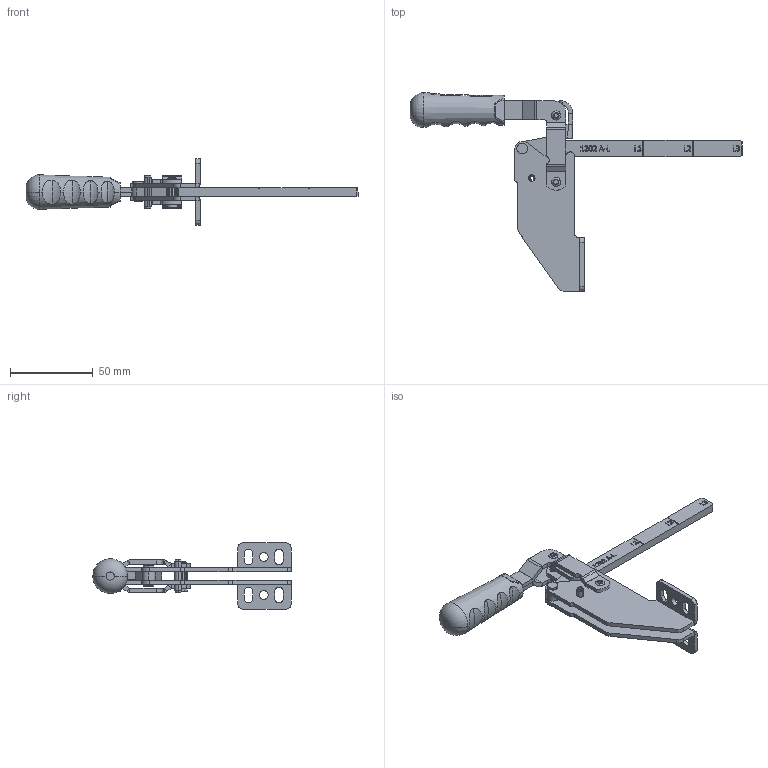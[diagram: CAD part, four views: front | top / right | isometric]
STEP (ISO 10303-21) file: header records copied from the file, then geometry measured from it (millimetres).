
FILE_DESCRIPTION (( 'STEP AP203' ), '1' );
FILE_NAME ('1202_A_L.STEP', '2022-11-26T14:52:43', ( '' ), ( '' ), 'SwSTEP 2.0', 'SolidWorks 2023', '' );
FILE_SCHEMA (( 'CONFIG_CONTROL_DESIGN' ));
Length unit declared in the file: millimetre
Products named in the file (11): 1202_Mafsal_Varsayılan; Pim_4x17_5_Varsayılan; Yarıklı Pim_4x20_Varsayılan; Pim_4x12_5_Varsayılan; Aynalama1302_Hareket kolu_Varsayılan; 1302_Hareket kolu_Varsayılan; C55_T(YENİ_TUTAMAK)_Varsayılan; 1202_A_L; 1302_UFA-Govde; Burc_7x4x10_Varsayılan; 1102A_Lama baskı Kolu_Varsayılan
Assembly tree (12 placements, depth 2):
  1202_A_L
    1302_UFA-Govde
    1202_Mafsal_Varsayılan
    1102A_Lama baskı Kolu_Varsayılan
    Pim_4x17_5_Varsayılan  x2
    Pim_4x12_5_Varsayılan  x2
    Yarıklı Pim_4x20_Varsayılan
    Burc_7x4x10_Varsayılan
    1302_Hareket kolu_Varsayılan
    Aynalama1302_Hareket kolu_Varsayılan
    C55_T(YENİ_TUTAMAK)_Varsayılan
Bounding box: 200.88 x 120.01 x 40 mm (x, y, z)
Volume: 44831.3 mm3; surface area: 35288.2 mm2
Topology: 13 solids, 13 shells, 1045 faces, 2701 edges, 1732 vertices
Faces by surface type: plane 620, cylinder 212, bspline 163, torus 34, cone 16
Entity records: 37286 total; most frequent: CARTESIAN_POINT 14016, ORIENTED_EDGE 4842, DIRECTION 4077, EDGE_CURVE 2421, VECTOR 1583, LINE 1583, VERTEX_POINT 1556, AXIS2_PLACEMENT_3D 1247
